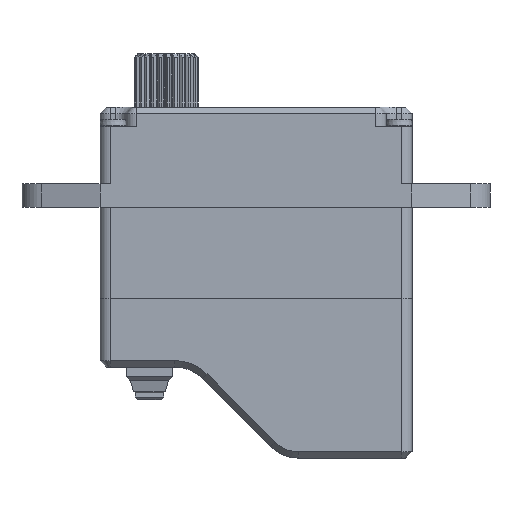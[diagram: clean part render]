
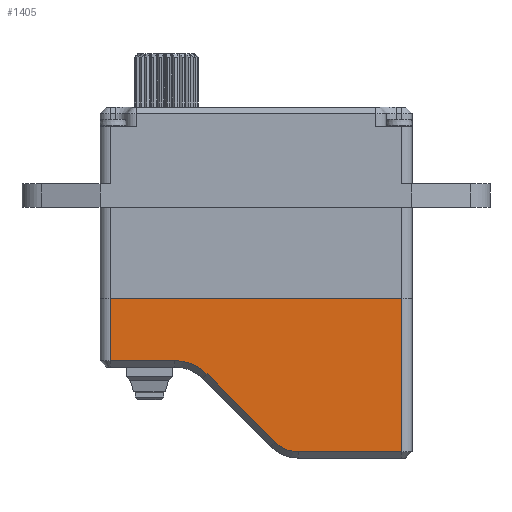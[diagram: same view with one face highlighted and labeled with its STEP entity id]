
A CAD part, front view. The second image highlights one B-rep face of the part: STEP entity #1405.
In plain terms, the highlighted planar face has unit normal (0, -1, 0).
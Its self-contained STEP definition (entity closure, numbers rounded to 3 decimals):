
#129 = ORIENTED_EDGE ( 'NONE', *, *, #11076, .T. ) ;
#890 = DIRECTION ( 'NONE',  ( 0., 1., 0. ) ) ;
#957 = VECTOR ( 'NONE', #10281, 1000. ) ;
#1139 = CARTESIAN_POINT ( 'NONE',  ( -44.014, -30.149, -1.5 ) ) ;
#1405 = ADVANCED_FACE ( 'NONE', ( #8855 ), #9432, .F. ) ;
#1855 = ORIENTED_EDGE ( 'NONE', *, *, #8272, .F. ) ;
#1904 = CARTESIAN_POINT ( 'NONE',  ( -55.214, -30.149, -1.5 ) ) ;
#2412 = DIRECTION ( 'NONE',  ( -1., 0., 0. ) ) ;
#2498 = LINE ( 'NONE', #5146, #17265 ) ;
#2549 = EDGE_LOOP ( 'NONE', ( #11169, #6768, #3535, #5423, #10034, #18106, #129, #1855 ) ) ;
#2566 = VERTEX_POINT ( 'NONE', #12335 ) ;
#2623 = CIRCLE ( 'NONE', #15303, 3.5 ) ;
#2805 = VERTEX_POINT ( 'NONE', #13213 ) ;
#2824 = CARTESIAN_POINT ( 'NONE',  ( -65.761, -30.149, -0.546 ) ) ;
#3075 = DIRECTION ( 'NONE',  ( 0., -1., 0. ) ) ;
#3535 = ORIENTED_EDGE ( 'NONE', *, *, #7974, .T. ) ;
#3593 = EDGE_CURVE ( 'NONE', #17100, #15916, #6630, .T. ) ;
#4041 = EDGE_CURVE ( 'NONE', #2566, #17100, #7094, .T. ) ;
#4141 = VERTEX_POINT ( 'NONE', #1139 ) ;
#4310 = VECTOR ( 'NONE', #14356, 1000. ) ;
#4528 = CARTESIAN_POINT ( 'NONE',  ( -61.457, -30.149, -6.3 ) ) ;
#4677 = CARTESIAN_POINT ( 'NONE',  ( -51.972, -30.149, -10.8 ) ) ;
#5146 = CARTESIAN_POINT ( 'NONE',  ( -66.414, -30.149, -2. ) ) ;
#5423 = ORIENTED_EDGE ( 'NONE', *, *, #15802, .T. ) ;
#5442 = DIRECTION ( 'NONE',  ( 0.707, 0., -0.707 ) ) ;
#5486 = VECTOR ( 'NONE', #6198, 1000. ) ;
#5943 = DIRECTION ( 'NONE',  ( -1., 0., 0. ) ) ;
#6182 = CARTESIAN_POINT ( 'NONE',  ( -44.014, -30.149, -13.3 ) ) ;
#6198 = DIRECTION ( 'NONE',  ( 1., 0., 0. ) ) ;
#6597 = DIRECTION ( 'NONE',  ( 0., 0., -1. ) ) ;
#6630 = LINE ( 'NONE', #10603, #5486 ) ;
#6768 = ORIENTED_EDGE ( 'NONE', *, *, #9554, .T. ) ;
#7094 = CIRCLE ( 'NONE', #14214, 2.5 ) ;
#7974 = EDGE_CURVE ( 'NONE', #16900, #15280, #2623, .T. ) ;
#8272 = EDGE_CURVE ( 'NONE', #13844, #4141, #11725, .T. ) ;
#8328 = LINE ( 'NONE', #8447, #957 ) ;
#8447 = CARTESIAN_POINT ( 'NONE',  ( -44.014, -30.149, -2. ) ) ;
#8855 = FACE_OUTER_BOUND ( 'NONE', #2549, .T. ) ;
#9020 = AXIS2_PLACEMENT_3D ( 'NONE', #10831, #890, #2412 ) ;
#9432 = PLANE ( 'NONE',  #9020 ) ;
#9554 = EDGE_CURVE ( 'NONE', #2805, #16900, #16144, .T. ) ;
#9996 = CARTESIAN_POINT ( 'NONE',  ( -51.972, -30.149, -13.3 ) ) ;
#10034 = ORIENTED_EDGE ( 'NONE', *, *, #4041, .T. ) ;
#10281 = DIRECTION ( 'NONE',  ( 0., 0., 1. ) ) ;
#10568 = DIRECTION ( 'NONE',  ( 1., 0., 0. ) ) ;
#10603 = CARTESIAN_POINT ( 'NONE',  ( -44.014, -30.149, -13.3 ) ) ;
#10831 = CARTESIAN_POINT ( 'NONE',  ( -67.214, -30.149, -2. ) ) ;
#11076 = EDGE_CURVE ( 'NONE', #15916, #4141, #8328, .T. ) ;
#11169 = ORIENTED_EDGE ( 'NONE', *, *, #16652, .T. ) ;
#11725 = LINE ( 'NONE', #1904, #13764 ) ;
#12092 = CARTESIAN_POINT ( 'NONE',  ( -66.414, -30.149, -1.5 ) ) ;
#12335 = CARTESIAN_POINT ( 'NONE',  ( -53.739, -30.149, -12.568 ) ) ;
#12602 = CARTESIAN_POINT ( 'NONE',  ( -61.457, -30.149, -6.3 ) ) ;
#13213 = CARTESIAN_POINT ( 'NONE',  ( -66.414, -30.149, -6.3 ) ) ;
#13764 = VECTOR ( 'NONE', #10568, 1000. ) ;
#13844 = VERTEX_POINT ( 'NONE', #12092 ) ;
#14076 = LINE ( 'NONE', #2824, #17890 ) ;
#14214 = AXIS2_PLACEMENT_3D ( 'NONE', #4677, #3075, #5943 ) ;
#14356 = DIRECTION ( 'NONE',  ( 1., 0., 0. ) ) ;
#15179 = DIRECTION ( 'NONE',  ( 0., 1., 0. ) ) ;
#15280 = VERTEX_POINT ( 'NONE', #17472 ) ;
#15303 = AXIS2_PLACEMENT_3D ( 'NONE', #17951, #15179, #18016 ) ;
#15802 = EDGE_CURVE ( 'NONE', #15280, #2566, #14076, .T. ) ;
#15916 = VERTEX_POINT ( 'NONE', #6182 ) ;
#16144 = LINE ( 'NONE', #4528, #4310 ) ;
#16652 = EDGE_CURVE ( 'NONE', #13844, #2805, #2498, .T. ) ;
#16900 = VERTEX_POINT ( 'NONE', #12602 ) ;
#17100 = VERTEX_POINT ( 'NONE', #9996 ) ;
#17265 = VECTOR ( 'NONE', #6597, 1000. ) ;
#17472 = CARTESIAN_POINT ( 'NONE',  ( -58.982, -30.149, -7.325 ) ) ;
#17890 = VECTOR ( 'NONE', #5442, 1000. ) ;
#17951 = CARTESIAN_POINT ( 'NONE',  ( -61.457, -30.149, -9.8 ) ) ;
#18016 = DIRECTION ( 'NONE',  ( -1., 0., 0. ) ) ;
#18106 = ORIENTED_EDGE ( 'NONE', *, *, #3593, .T. ) ;
